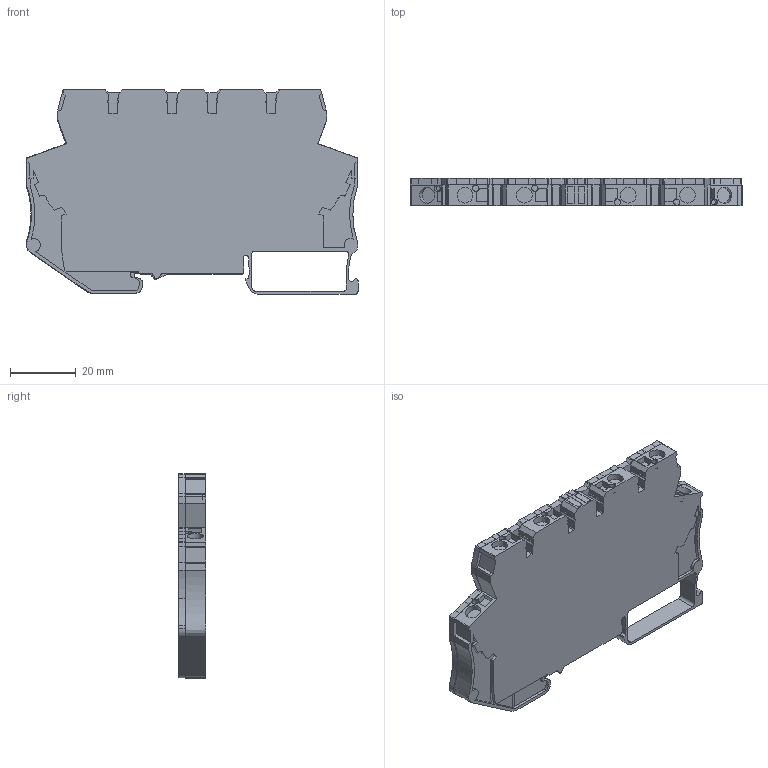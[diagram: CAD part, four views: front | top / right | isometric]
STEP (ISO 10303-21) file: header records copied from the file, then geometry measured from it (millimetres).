
FILE_DESCRIPTION(('STEP AP214'), '1');
FILE_NAME('ÍÏÊÃ.421457.175-002 NLS-1R24 äëÿ ñòïêÂÂÂÂÂóóóó', '', ('UNSPECIFIED'), ('UNSPECIFIED'), 'C3D Converter', 'C3D Toolkit', '');
FILE_SCHEMA(('AUTOMOTIVE_DESIGN { 1 0 10303 214 3 1 1}'));
Length unit declared in the file: millimetre
Bounding box: 100.78 x 8.22 x 62.17 mm (x, y, z)
Volume: 22788.9 mm3; surface area: 28828.2 mm2
Topology: 2 solids, 2 shells, 3918 faces, 10814 edges, 7197 vertices
Faces by surface type: plane 2095, extrusion 1747, cylinder 76
Full cylindrical faces by diameter (mm): 1 x2, 1.9 x6, 2 x5, 4.8 x6
Entity records: 176646 total; most frequent: CARTESIAN_POINT 50924, ORIENTED_EDGE 21592, DIRECTION 13492, EDGE_CURVE 10796, VECTOR 8844, VERTEX_POINT 8429, LINE 7097, B_SPLINE_CURVE_WITH_KNOTS 5294
